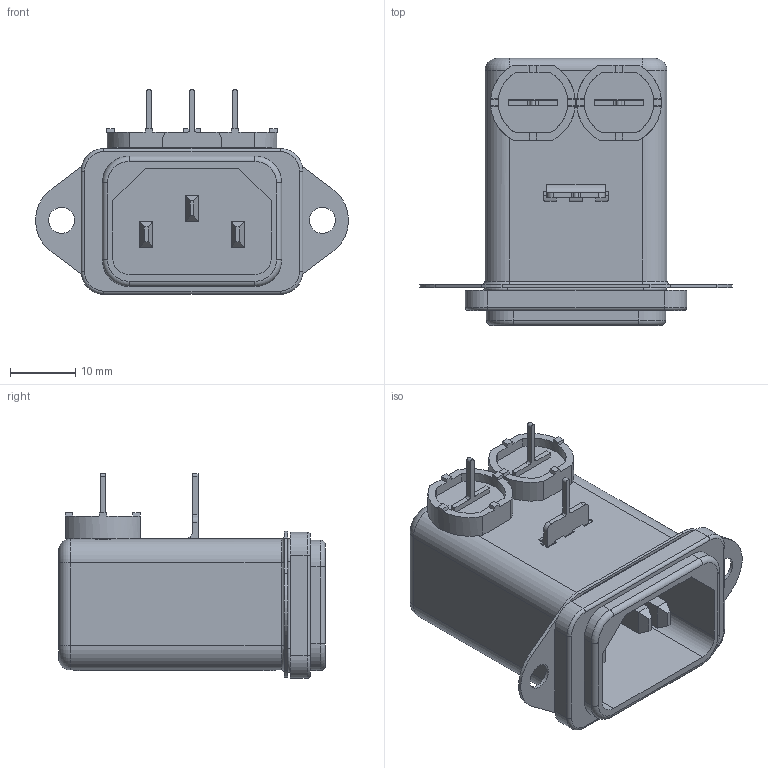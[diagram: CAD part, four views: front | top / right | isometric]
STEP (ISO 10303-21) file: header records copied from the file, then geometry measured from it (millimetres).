
FILE_DESCRIPTION((''),'2;1');
FILE_NAME('D:\_ PRODUCT\New project\3D request\FN9226\FN9226.stp','2012-11-29T10:59:32',('sayan.penton'),(''),'Autodesk Inventor 2010','Autodesk Inventor 2010','');
FILE_SCHEMA(('AUTOMOTIVE_DESIGN { 1 0 10303 214 1 1 1 1 }'));
Length unit declared in the file: millimetre
Products named in the file (1): Part2
Bounding box: 47.96 x 40.95 x 31.4 mm (x, y, z)
Volume: 16961.6 mm3; surface area: 11166.2 mm2
Topology: 1 solids, 1 shells, 652 faces, 1793 edges, 1155 vertices
Faces by surface type: plane 301, cylinder 169, bspline 157, torus 25
Full cylindrical faces by diameter (mm): 4 x2
Entity records: 29382 total; most frequent: CARTESIAN_POINT 12617, ORIENTED_EDGE 3582, DIRECTION 3088, EDGE_CURVE 1791, VECTOR 1188, LINE 1188, VERTEX_POINT 1155, AXIS2_PLACEMENT_3D 950
